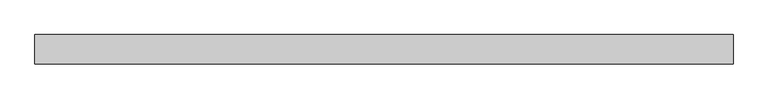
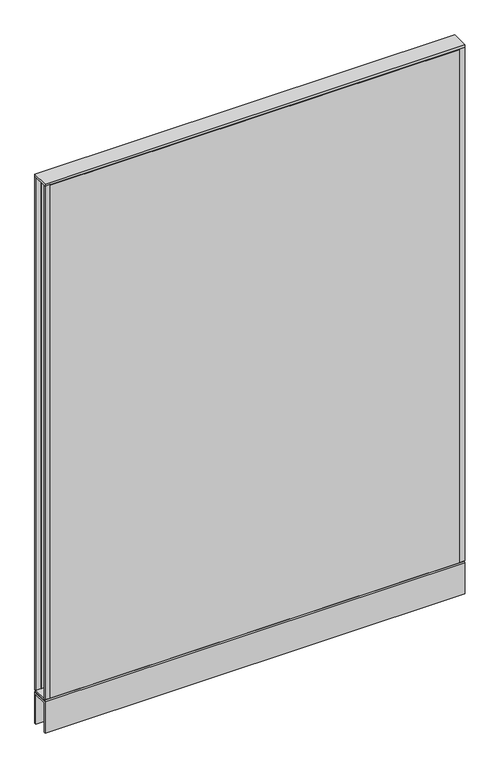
"""IFC4 building model written with IfcOpenShell, lengths in millimetres: furniture geometry, Steelcase - Kick Solutions - Panel - Monolithic - Tackable Acoustical : 66H x 48W."""

from ifc_helpers import new_model, si_unit, frame, origin, place, context, project, spatial, polyline, outline, extrude, source, transform, mapped, element, save


def furniture_34794820(model_context):
    return source(origin(), model_context, "Body", "SweptSolid", [
        extrude(outline(polyline([(0.0, 101.7169049), (-3.1750015, 101.7169049), (-3.1750015, 1676.5169018), (0.0, 1673.4357466), (0.0, 101.7169049)])), frame((15.8749996, 0.0, 0.0), z_axis=(1.0, 0.0, 0.0), x_axis=(0.0, 1.0, 0.0)), (0.0, 0.0, 1.0), 1187.4500008),
        extrude(outline(polyline([(-50.8000015, 101.7169049), (-50.8000015, 1673.4357466), (-47.625, 1676.5169018), (-47.625, 101.7169049), (-50.8000015, 101.7169049)])), frame((15.8749996, 0.0, 0.0), z_axis=(1.0, 0.0, 0.0), x_axis=(0.0, 1.0, 0.0)), (0.0, 0.0, 1.0), 1187.4500008),
        extrude(outline(polyline([(1219.2, -3.1750015), (1203.3250004, -3.1750015), (1203.3250004, 0.0), (1219.2, 0.0), (1219.2, -3.1750015)])), frame((0.0, 0.0, 101.7169049), z_axis=(0.0, 0.0, 1.0), x_axis=(1.0, 0.0, 0.0)), (0.0, 0.0, 1.0), 1574.799997),
        extrude(outline(polyline([(15.8749996, -50.8000015), (0.0, -50.8000015), (0.0, -47.625), (15.8749996, -47.625), (15.8749996, -50.8000015)])), frame((0.0, 0.0, 101.7169049), z_axis=(0.0, 0.0, 1.0), x_axis=(1.0, 0.0, 0.0)), (0.0, 0.0, 1.0), 1574.799997),
        extrude(outline(polyline([(-50.7995075, 101.7169049), (-0.000494, 101.7169049), (-3.0583512, 98.5421458), (-47.7416503, 98.5421458), (-50.7995075, 101.7169049)])), frame((0.0, 0.0, 0.0), z_axis=(1.0, 0.0, 0.0), x_axis=(0.0, 1.0, 0.0)), (0.0, 0.0, 1.0), 1219.2),
        extrude(outline(polyline([(1219.2, 0.0), (1219.2, -50.8000015), (0.0, -50.8000015), (0.0, 0.0), (1219.2, 0.0)])), frame((0.0, 0.0, 1676.5169018), z_axis=(0.0, 0.0, 1.0), x_axis=(1.0, 0.0, 0.0)), (0.0, 0.0, 1.0), 6.35),
        extrude(outline(polyline([(15.8749996, -3.1750015), (0.0, -3.1750015), (0.0, 0.0), (15.8749996, 0.0), (15.8749996, -3.1750015)])), frame((0.0, 0.0, 101.7169049), z_axis=(0.0, 0.0, 1.0), x_axis=(1.0, 0.0, 0.0)), (0.0, 0.0, 1.0), 1574.799997),
        extrude(outline(polyline([(1219.2, -50.8000015), (1203.3250004, -50.8000015), (1203.3250004, -47.625), (1219.2, -47.625), (1219.2, -50.8000015)])), frame((0.0, 0.0, 101.7169049), z_axis=(0.0, 0.0, 1.0), x_axis=(1.0, 0.0, 0.0)), (0.0, 0.0, 1.0), 1574.799997),
        extrude(outline(polyline([(-50.8000015, 95.3668927), (-47.6247484, 98.5421458), (-3.1752531, 98.5421458), (0.0, 95.3668927), (-50.8000015, 95.3668927)])), frame((0.0, 0.0, 0.0), z_axis=(1.0, 0.0, 0.0), x_axis=(0.0, 1.0, 0.0)), (0.0, 0.0, 1.0), 1219.2),
        extrude(outline(polyline([(0.0, 0.0), (-5.08, 0.0), (-5.08, 90.2869018), (-45.7200015, 90.2869018), (-45.7200015, 0.0), (-50.8000015, 0.0), (-50.8000015, 95.3669018), (0.0, 95.3669018), (0.0, 0.0)])), frame((0.0, 0.0, 0.0), z_axis=(1.0, 0.0, 0.0), x_axis=(0.0, 1.0, 0.0)), (0.0, 0.0, 1.0), 1219.2),
    ])


if __name__ == "__main__":
    model = new_model("IFC4")
    model_context = context("Model", 3, world=origin())
    ifc_project = project(units=[si_unit("LENGTHUNIT", "METRE", prefix="MILLI")], contexts=[model_context])
    site = spatial("IfcSite", under=ifc_project)
    building = spatial("IfcBuilding", under=site)
    placement = place(None, origin())
    furniture_shape = furniture_34794820(model_context)
    element("IfcFurniture", 1, ObjectType="Steelcase - Kick Solutions - Panel - Monolithic - Tackable Acoustical : 66H x 48W", at=placement, inside=building, context=model_context, shape_type="MappedRepresentation", body=[
        mapped(furniture_shape, transform((0.0, 0.0, 0.0), x_axis=(1.0, 0.0, 0.0), y_axis=(0.0, 1.0, 0.0), z_axis=(0.0, 0.0, 1.0))),
    ])
    save(model, "model.ifc")
